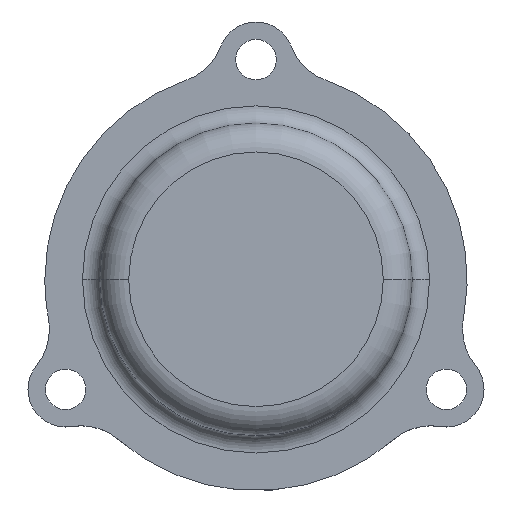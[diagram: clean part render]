
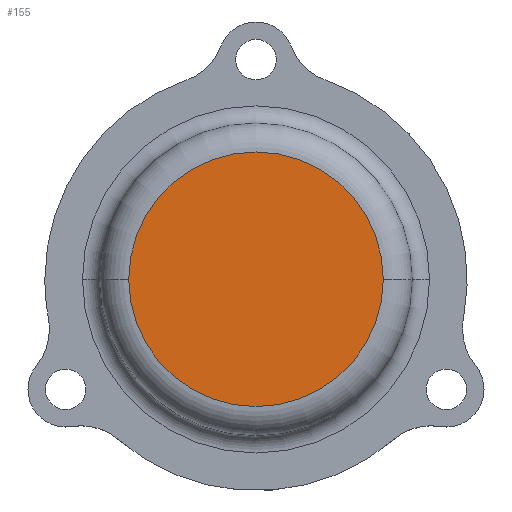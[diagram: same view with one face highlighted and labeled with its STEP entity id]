
A CAD part, top view. The second image highlights one B-rep face of the part: STEP entity #155.
In plain terms, the highlighted planar face has unit normal (0, 0, 1).
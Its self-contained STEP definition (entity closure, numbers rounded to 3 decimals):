
#78 = AXIS2_PLACEMENT_3D ( 'NONE', #979, #321, #149 ) ;
#102 = CARTESIAN_POINT ( 'NONE',  ( 0., 0., 22. ) ) ;
#149 = DIRECTION ( 'NONE',  ( 1., 0., 0. ) ) ;
#155 = ADVANCED_FACE ( 'NONE', ( #359 ), #229, .T. ) ;
#186 = ORIENTED_EDGE ( 'NONE', *, *, #628, .T. ) ;
#194 = DIRECTION ( 'NONE',  ( 1., 0., 0. ) ) ;
#229 = PLANE ( 'NONE',  #78 ) ;
#267 = DIRECTION ( 'NONE',  ( 0., 0., 1. ) ) ;
#321 = DIRECTION ( 'NONE',  ( 0., 0., 1. ) ) ;
#359 = FACE_OUTER_BOUND ( 'NONE', #858, .T. ) ;
#507 = AXIS2_PLACEMENT_3D ( 'NONE', #839, #267, #931 ) ;
#589 = VERTEX_POINT ( 'NONE', #797 ) ;
#628 = EDGE_CURVE ( 'NONE', #1019, #589, #649, .T. ) ;
#642 = CARTESIAN_POINT ( 'NONE',  ( 22., 0., 22. ) ) ;
#649 = CIRCLE ( 'NONE', #1066, 22. ) ;
#733 = ORIENTED_EDGE ( 'NONE', *, *, #1003, .T. ) ;
#759 = DIRECTION ( 'NONE',  ( 0., 0., 1. ) ) ;
#797 = CARTESIAN_POINT ( 'NONE',  ( -22., 0., 22. ) ) ;
#839 = CARTESIAN_POINT ( 'NONE',  ( 0., 0., 22. ) ) ;
#858 = EDGE_LOOP ( 'NONE', ( #186, #733 ) ) ;
#931 = DIRECTION ( 'NONE',  ( 1., 0., 0. ) ) ;
#979 = CARTESIAN_POINT ( 'NONE',  ( 0., 0., 22. ) ) ;
#1003 = EDGE_CURVE ( 'NONE', #589, #1019, #1119, .T. ) ;
#1019 = VERTEX_POINT ( 'NONE', #642 ) ;
#1066 = AXIS2_PLACEMENT_3D ( 'NONE', #102, #759, #194 ) ;
#1119 = CIRCLE ( 'NONE', #507, 22. ) ;
